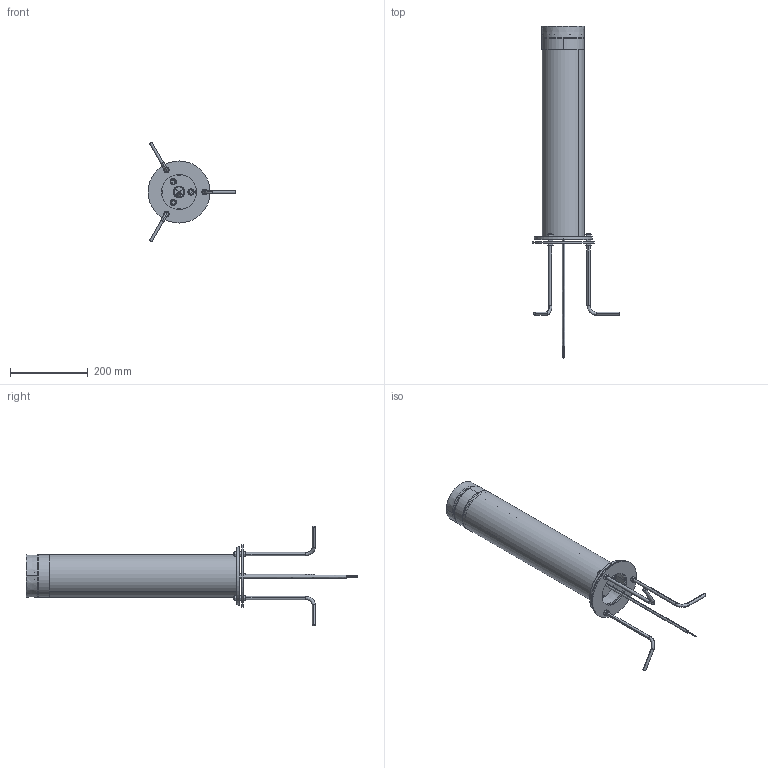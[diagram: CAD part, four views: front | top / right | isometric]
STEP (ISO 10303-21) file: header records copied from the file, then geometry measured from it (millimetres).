
FILE_DESCRIPTION((''),'2;1');
FILE_NAME('9AF-550_ASM','2024-09-18T',('C028'),(''),'CREO PARAMETRIC BY PTC INC, 2014190','CREO PARAMETRIC BY PTC INC, 2014190','');
FILE_SCHEMA(('CONFIG_CONTROL_DESIGN'));
Products named in the file (34): ___WO110__U_X___W_O__O___W___V2; ___WO110__U_X___W_O_________I_T; ___WO110__U_X___W_O_____PC_O_V2; ___WO110__U_X___W_O__O_______PC; M18; O-A1; ___WO110__U_X___W_O_V2______WO1_ASM; ______1; GUI_JIAO_QUAN; ___WO110__U_X___W_O____W_Z-5063_ASM; ____-____5; 9AB-03DUDINGZUOHOUGAI_1_8; ___WO110__U_X___W_O__U_O_-25766; LI_BAN-24; O-B1; DIAN_YUAN_01; DIAN_YUAN_02; ___WO110__U_X___W_O____W_-25881_ASM; 9AD-07_300_1_35; LI_BAN; GUANZI_1; 12-ZHUANGJIEGGAI_3; 6-23; DICHA14A_ASM_1_ASM; 9AB_FA_LAN_PAN_56; PIN; M8-25; YUAN_GUAN-800_ASM; 9AB-11_4__ANY; M8LUOMU_3__ANY; 9AB-10_5__ANY; 9ABDIZUO_AF5_ASM_333_ASM_1_ANY_ASM; _____WO110_E_U_X___W_O_V2_180_A_ASM; 9AF-550_ASM
Assembly tree (48 placements, depth 5):
  9AF-550_ASM
    _____WO110_E_U_X___W_O_V2_180_A_ASM
      ___WO110__U_X___W_O_V2______WO1_ASM
        ___WO110__U_X___W_O__O___W___V2
        ___WO110__U_X___W_O_________I_T
        ___WO110__U_X___W_O_____PC_O_V2
        ___WO110__U_X___W_O__O_______PC
        M18
        O-A1
      ___WO110__U_X___W_O____W_Z-5063_ASM
        ______1
        GUI_JIAO_QUAN  x2
      ___WO110__U_X___W_O____W_-25881_ASM
        ____-____5
        9AB-03DUDINGZUOHOUGAI_1_8
        ___WO110__U_X___W_O__U_O_-25766
        LI_BAN-24
        O-B1
        DIAN_YUAN_01
        DIAN_YUAN_02
      YUAN_GUAN-800_ASM
        9AD-07_300_1_35
        LI_BAN
        DICHA14A_ASM_1_ASM
          GUANZI_1
          12-ZHUANGJIEGGAI_3
          6-23
        9AB_FA_LAN_PAN_56
        PIN  x3
        M8-25  x3
      9ABDIZUO_AF5_ASM_333_ASM_1_ANY_ASM
        9AB-11_4__ANY  x3
        M8LUOMU_3__ANY  x9
        9AB-10_5__ANY
Bounding box: 226.5 x 856.03 x 257.75 mm (x, y, z)
Volume: 1392917.7 mm3; surface area: 845873 mm2
Topology: 42 solids, 42 shells, 2401 faces, 6139 edges, 3952 vertices
Faces by surface type: plane 1002, cylinder 595, cone 375, bspline 218, torus 134, extrusion 69, sphere 8
Entity records: 89346 total; most frequent: CARTESIAN_POINT 39681, ORIENTED_EDGE 10426, DIRECTION 9845, EDGE_CURVE 5213, AXIS2_PLACEMENT_3D 3513, VERTEX_POINT 3390, VECTOR 2819, LINE 2750
